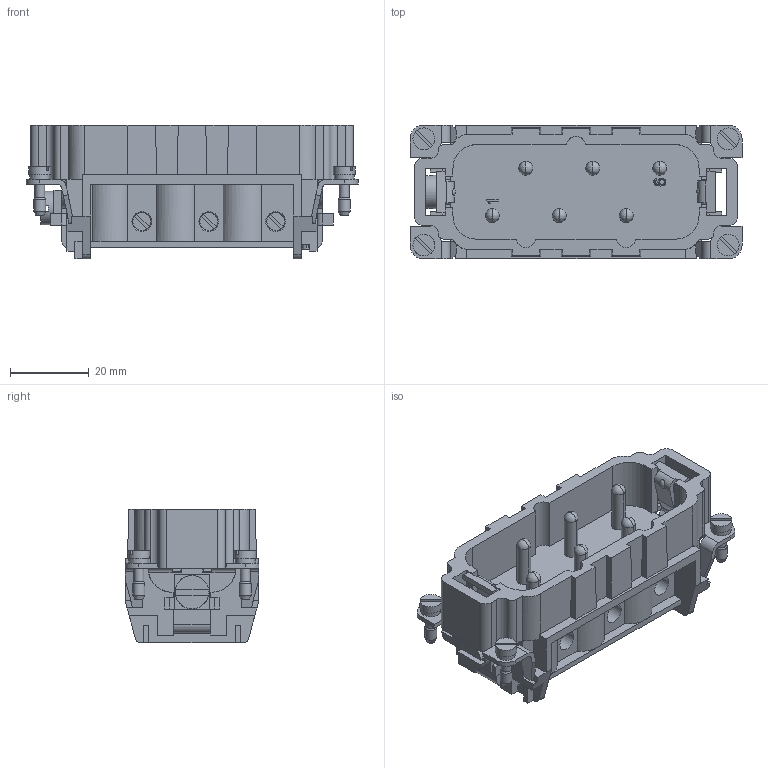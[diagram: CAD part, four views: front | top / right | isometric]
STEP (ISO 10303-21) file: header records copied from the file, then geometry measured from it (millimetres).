
FILE_DESCRIPTION(/* description */ (''),/* implementation_level */ '2;1');
FILE_NAME(/* name */ 'HSB-006-M.stp',/* time_stamp */ '2023-09-08T09:31:59+08:00',/* author */ (''),/* organization */ (''),/* preprocessor_version */ 'ST-DEVELOPER v16.7',/* originating_system */ 'SIEMENS PLM Software NX 12.0',/* authorisation */ '');
FILE_SCHEMA (('AUTOMOTIVE_DESIGN { 1 0 10303 214 3 1 1 1 }'));
Length unit declared in the file: millimetre
Products named in the file (1): 09310062601_100094797MOD000C_stp
Bounding box: 84.3 x 34 x 34 mm (x, y, z)
Volume: 35328.6 mm3; surface area: 21366 mm2
Topology: 1 solids, 1 shells, 688 faces, 1999 edges, 1311 vertices
Faces by surface type: plane 433, cylinder 147, extrusion 62, cone 26, sphere 16, bspline 4
Full cylindrical faces by diameter (mm): 0.4 x2, 2.5 x4, 3 x4, 3.242 x1, 4.5 x6, 4.7 x6, 5 x10, 5.5 x4, 8.5 x1
Entity records: 27803 total; most frequent: CARTESIAN_POINT 5525, ORIENTED_EDGE 3734, DIRECTION 3338, EDGE_CURVE 1867, VECTOR 1298, VERTEX_POINT 1275, LINE 1236, AXIS2_PLACEMENT_3D 1020
